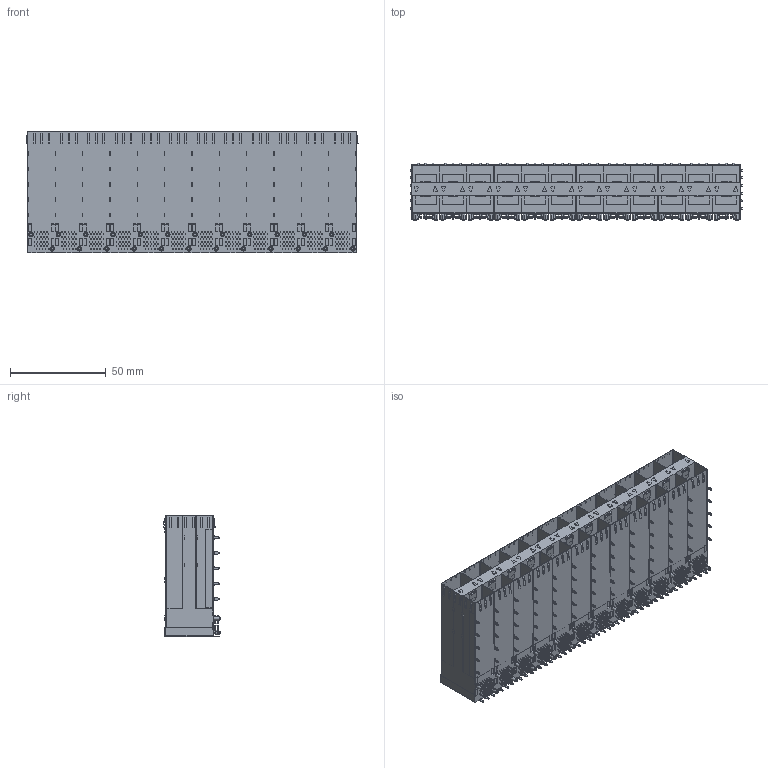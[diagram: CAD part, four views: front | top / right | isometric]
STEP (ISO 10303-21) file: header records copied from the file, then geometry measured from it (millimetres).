
FILE_DESCRIPTION (( 'STEP AP214' ), '1' );
FILE_NAME ('SFP 2X12 无月牙 外灯(下上) 3D.STEP', '2025-09-02T06:54:49', ( '桑三博客' ), ( 'Www.SangSan.Cn' ), 'SwSTEP 2.0', 'SolidWorks 2018', '' );
FILE_SCHEMA (( 'AUTOMOTIVE_DESIGN' ));
Products named in the file (1): SFP 2X12 拸堎挴 俋腑(狟奻)  3D
Bounding box: 173.05 x 29.8 x 63.5 mm (x, y, z)
Volume: 139088.8 mm3; surface area: 94140.6 mm2
Topology: 1 solids, 1 shells, 6654 faces, 17630 edges, 11718 vertices
Faces by surface type: plane 4982, cylinder 1574, cone 96, sphere 2
Entity records: 205026 total; most frequent: CARTESIAN_POINT 36001, ORIENTED_EDGE 35256, DIRECTION 34182, EDGE_CURVE 17628, LINE 14384, VECTOR 14384, VERTEX_POINT 11718, AXIS2_PLACEMENT_3D 9899
